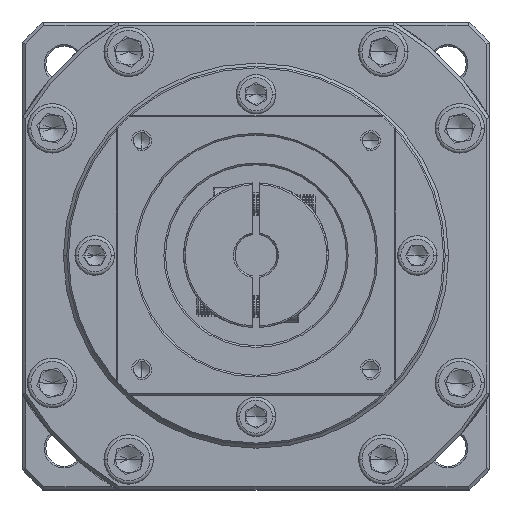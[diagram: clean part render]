
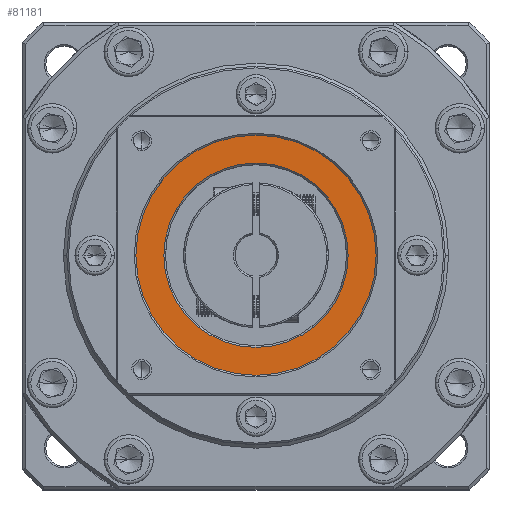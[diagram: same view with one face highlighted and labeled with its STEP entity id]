
A CAD part, top view. The second image highlights one B-rep face of the part: STEP entity #81181.
In plain terms, the highlighted planar face has unit normal (0, 0, 1).
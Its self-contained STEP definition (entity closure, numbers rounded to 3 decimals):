
#340 = EDGE_CURVE ( 'NONE', #118662, #49741, #116734, .T. ) ;
#2582 = VERTEX_POINT ( 'NONE', #79150 ) ;
#5065 = CARTESIAN_POINT ( 'NONE',  ( 25.277, -6.161, 102.5 ) ) ;
#6302 = DIRECTION ( 'NONE',  ( 1., 0., 0. ) ) ;
#8560 = AXIS2_PLACEMENT_3D ( 'NONE', #5065, #83230, #15507 ) ;
#10443 = PLANE ( 'NONE',  #101508 ) ;
#11109 = FACE_OUTER_BOUND ( 'NONE', #22160, .T. ) ;
#15507 = DIRECTION ( 'NONE',  ( 1., 0., 0. ) ) ;
#17597 = VERTEX_POINT ( 'NONE', #124322 ) ;
#20704 = AXIS2_PLACEMENT_3D ( 'NONE', #85720, #104624, #6302 ) ;
#21543 = CARTESIAN_POINT ( 'NONE',  ( 61.777, -6.161, 102.5 ) ) ;
#22160 = EDGE_LOOP ( 'NONE', ( #104756, #115758 ) ) ;
#22725 = CIRCLE ( 'NONE', #20704, 28. ) ;
#25899 = EDGE_CURVE ( 'NONE', #17597, #2582, #119229, .T. ) ;
#27308 = AXIS2_PLACEMENT_3D ( 'NONE', #75424, #46297, #84479 ) ;
#37718 = EDGE_CURVE ( 'NONE', #49741, #118662, #86639, .T. ) ;
#39399 = CARTESIAN_POINT ( 'NONE',  ( 25.277, -6.161, 102.5 ) ) ;
#40925 = CARTESIAN_POINT ( 'NONE',  ( 25.277, -6.161, 102.5 ) ) ;
#46297 = DIRECTION ( 'NONE',  ( 0., 0., 1. ) ) ;
#49741 = VERTEX_POINT ( 'NONE', #78229 ) ;
#51016 = ORIENTED_EDGE ( 'NONE', *, *, #25899, .T. ) ;
#52028 = AXIS2_PLACEMENT_3D ( 'NONE', #39399, #108426, #86978 ) ;
#61032 = DIRECTION ( 'NONE',  ( 1., 0., 0. ) ) ;
#75424 = CARTESIAN_POINT ( 'NONE',  ( 25.277, -6.161, 102.5 ) ) ;
#75771 = EDGE_LOOP ( 'NONE', ( #94704, #51016 ) ) ;
#78229 = CARTESIAN_POINT ( 'NONE',  ( -11.223, -6.161, 102.5 ) ) ;
#79150 = CARTESIAN_POINT ( 'NONE',  ( 53.277, -6.161, 102.5 ) ) ;
#81181 = ADVANCED_FACE ( 'NONE', ( #11109, #115553 ), #10443, .T. ) ;
#83230 = DIRECTION ( 'NONE',  ( 0., 0., -1. ) ) ;
#84479 = DIRECTION ( 'NONE',  ( 1., 0., 0. ) ) ;
#85720 = CARTESIAN_POINT ( 'NONE',  ( 25.277, -6.161, 102.5 ) ) ;
#86639 = CIRCLE ( 'NONE', #27308, 36.5 ) ;
#86978 = DIRECTION ( 'NONE',  ( 1., 0., 0. ) ) ;
#94704 = ORIENTED_EDGE ( 'NONE', *, *, #122891, .T. ) ;
#101508 = AXIS2_PLACEMENT_3D ( 'NONE', #40925, #118647, #61032 ) ;
#104624 = DIRECTION ( 'NONE',  ( 0., 0., -1. ) ) ;
#104756 = ORIENTED_EDGE ( 'NONE', *, *, #340, .T. ) ;
#108426 = DIRECTION ( 'NONE',  ( 0., 0., 1. ) ) ;
#115553 = FACE_BOUND ( 'NONE', #75771, .T. ) ;
#115758 = ORIENTED_EDGE ( 'NONE', *, *, #37718, .T. ) ;
#116734 = CIRCLE ( 'NONE', #52028, 36.5 ) ;
#118647 = DIRECTION ( 'NONE',  ( 0., 0., 1. ) ) ;
#118662 = VERTEX_POINT ( 'NONE', #21543 ) ;
#119229 = CIRCLE ( 'NONE', #8560, 28. ) ;
#122891 = EDGE_CURVE ( 'NONE', #2582, #17597, #22725, .T. ) ;
#124322 = CARTESIAN_POINT ( 'NONE',  ( -2.723, -6.161, 102.5 ) ) ;
